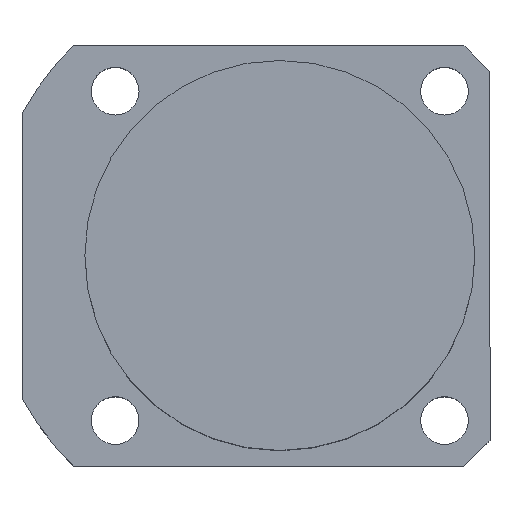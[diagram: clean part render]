
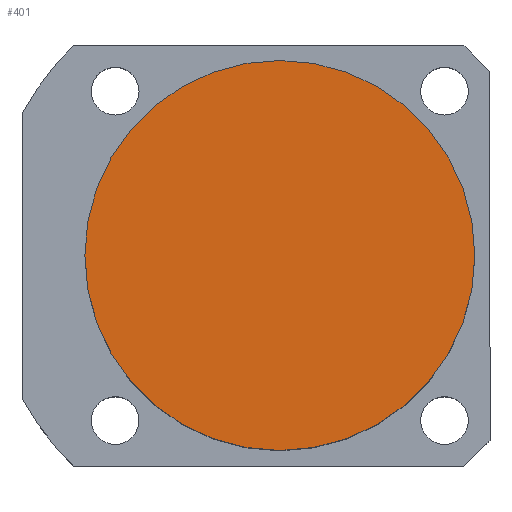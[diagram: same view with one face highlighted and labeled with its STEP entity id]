
A CAD part, top view. The second image highlights one B-rep face of the part: STEP entity #401.
In plain terms, the highlighted planar face has unit normal (0, 0, 1).
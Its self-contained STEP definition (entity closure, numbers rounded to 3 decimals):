
#92 = DIRECTION ( 'NONE',  ( 0., 0., 1. ) ) ;
#119 = AXIS2_PLACEMENT_3D ( 'NONE', #1585, #520, #1571 ) ;
#133 = CARTESIAN_POINT ( 'NONE',  ( 0., 0., 69.5 ) ) ;
#325 = CARTESIAN_POINT ( 'NONE',  ( -45., 0., 69.5 ) ) ;
#362 = ORIENTED_EDGE ( 'NONE', *, *, #466, .T. ) ;
#363 = EDGE_CURVE ( 'NONE', #1892, #595, #1332, .T. ) ;
#401 = ADVANCED_FACE ( 'NONE', ( #1471 ), #989, .T. ) ;
#466 = EDGE_CURVE ( 'NONE', #595, #1892, #805, .T. ) ;
#520 = DIRECTION ( 'NONE',  ( 0., 0., 1. ) ) ;
#595 = VERTEX_POINT ( 'NONE', #325 ) ;
#805 = CIRCLE ( 'NONE', #1052, 45. ) ;
#874 = DIRECTION ( 'NONE',  ( 1., 0., 0. ) ) ;
#911 = EDGE_LOOP ( 'NONE', ( #362, #1197 ) ) ;
#989 = PLANE ( 'NONE',  #1348 ) ;
#1052 = AXIS2_PLACEMENT_3D ( 'NONE', #133, #1160, #874 ) ;
#1160 = DIRECTION ( 'NONE',  ( 0., 0., 1. ) ) ;
#1197 = ORIENTED_EDGE ( 'NONE', *, *, #363, .T. ) ;
#1332 = CIRCLE ( 'NONE', #119, 45. ) ;
#1348 = AXIS2_PLACEMENT_3D ( 'NONE', #1418, #92, #1737 ) ;
#1418 = CARTESIAN_POINT ( 'NONE',  ( 0., 0., 69.5 ) ) ;
#1471 = FACE_OUTER_BOUND ( 'NONE', #911, .T. ) ;
#1571 = DIRECTION ( 'NONE',  ( 1., 0., 0. ) ) ;
#1585 = CARTESIAN_POINT ( 'NONE',  ( 0., 0., 69.5 ) ) ;
#1589 = CARTESIAN_POINT ( 'NONE',  ( 45., 0., 69.5 ) ) ;
#1737 = DIRECTION ( 'NONE',  ( 1., 0., 0. ) ) ;
#1892 = VERTEX_POINT ( 'NONE', #1589 ) ;
